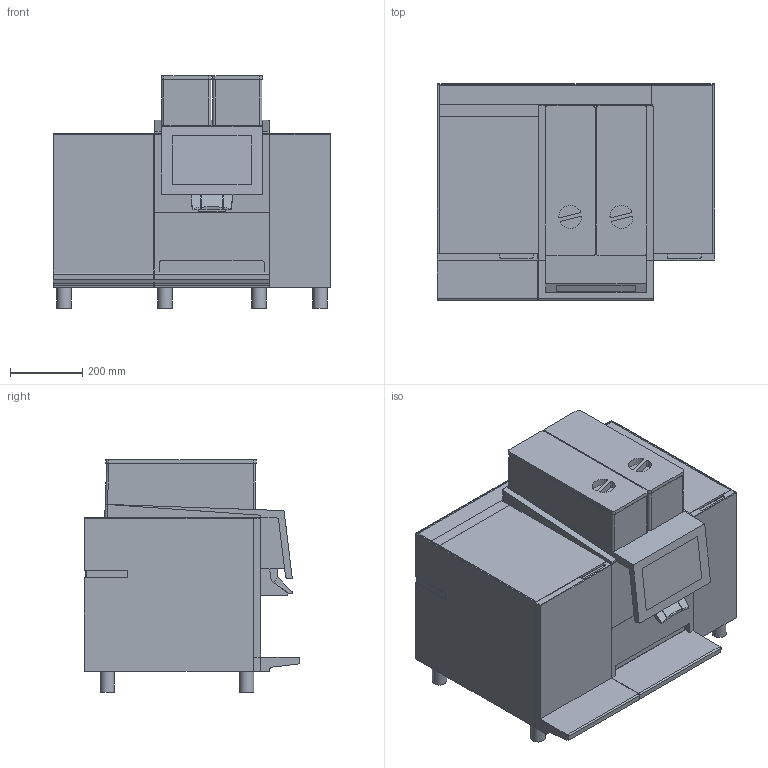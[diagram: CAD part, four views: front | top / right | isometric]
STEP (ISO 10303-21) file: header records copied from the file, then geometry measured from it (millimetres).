
FILE_DESCRIPTION(/* description */ ('Unknown'),/* implementation_level */ '2;1');
FILE_NAME(/* name */ 'HM_BW4-CTM-F-RL',/* time_stamp */ '2026-08-14T11:18:02+02:00',/* author */ ('Unknown'),/* organization */ ('Unknown'),/* preprocessor_version */ 'ST-DEVELOPER v20',/* originating_system */ 'Solid Edge',/* authorisation */ 'Unknown');
FILE_SCHEMA (('AUTOMOTIVE_DESIGN {1 0 10303 214 3 1 1}'));
Length unit declared in the file: millimetre
Products named in the file (1): HM_BW4-CTM-F-RL
Bounding box: 771.3 x 599.39 x 645.65 mm (x, y, z)
Volume: 184341524.9 mm3; surface area: 2634381.1 mm2
Topology: 1 solids, 1 shells, 309 faces, 838 edges, 539 vertices
Faces by surface type: plane 228, cylinder 77, sphere 4
Full cylindrical faces by diameter (mm): 40 x8
Entity records: 11754 total; most frequent: CARTESIAN_POINT 1669, ORIENTED_EDGE 1646, DIRECTION 1612, EDGE_CURVE 823, LINE 654, VECTOR 654, VERTEX_POINT 536, AXIS2_PLACEMENT_3D 479
